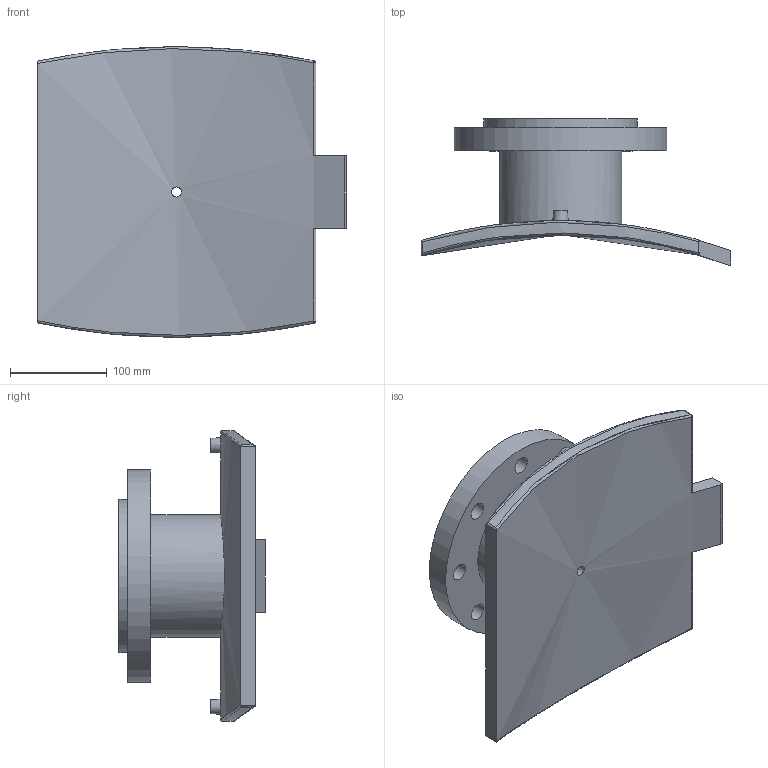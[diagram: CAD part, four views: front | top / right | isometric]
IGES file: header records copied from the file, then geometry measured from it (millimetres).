
Global section: file name: 4959031000100T; native system: Autodesk Inventor 2019; preprocessor: unknown; author: KIM; date: 20240403.210900; units: millimetre
Bounding box: 320 x 151.01 x 299.98 mm (x, y, z)
Volume: 2426299 mm3; surface area: 342388.9 mm2
Topology: 1 solids, 1 shells, 58 faces, 151 edges, 118 vertices
Faces by surface type: bspline 58
